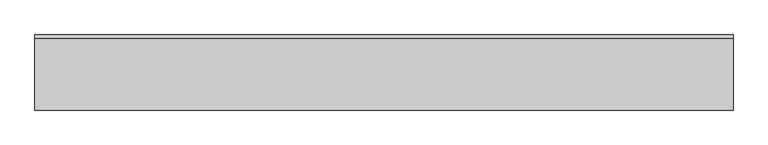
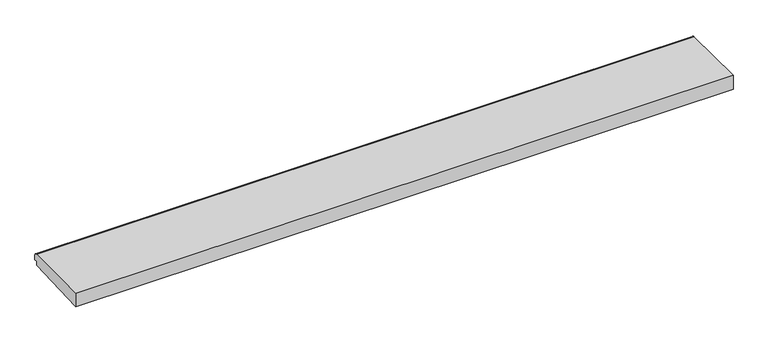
"""IFC4 building model written with IfcOpenShell, lengths in millimetres: proxy geometry, ARQ_BANCA_T3 : ARQ_BANCA_T3."""

from ifc_helpers import new_model, si_unit, point, frame, frame_2d, origin, place, context, project, spatial, polyline, circle_curve, trimmed, segment, composite_curve, outline, extrude, source, transform, mapped, element, save


def generic_models_33ff339d(model_context):
    return source(origin(), model_context, "Body", "SweptSolid", [
        extrude(outline(composite_curve([segment(polyline([(458.9887539, 322.2211934), (0.0, 302.6129318), (0.0, 400.0), (459.0, 399.921901)]), True, "CONTINUOUS"), segment(trimmed(circle_curve(frame_2d((459.0, 379.921901)), 20.0), [point((459.0, 399.921901))], [point((479.0, 379.921901))], False, "CARTESIAN"), True, "CONTINUOUS"), segment(polyline([(479.0, 379.921901), (479.0, 349.9219009), (458.9887539, 349.9219009), (458.9887539, 322.2211934)]), True, "CONTINUOUS")], self_intersect=False)), frame((-2225.3744925, 0.0, 0.0), z_axis=(1.0, 0.0, 0.0), x_axis=(0.0, 1.0, 0.0)), (0.0, 0.0, 1.0), 4450.748985),
    ])


if __name__ == "__main__":
    model = new_model("IFC4")
    model_context = context("Model", 3, world=origin())
    ifc_project = project(units=[si_unit("LENGTHUNIT", "METRE", prefix="MILLI")], contexts=[model_context])
    site = spatial("IfcSite", under=ifc_project)
    building = spatial("IfcBuilding", under=site)
    placement = place(None, origin())
    generic_models_shape = generic_models_33ff339d(model_context)
    element("IfcBuildingElementProxy", 1, Name="ARQ_BANCA_T3 : ARQ_BANCA_T3", ObjectType="ARQ_BANCA_T3 : ARQ_BANCA_T3", at=placement, inside=building, context=model_context, shape_type="MappedRepresentation", body=[
        mapped(generic_models_shape, transform((0.0, 0.0, 0.0), x_axis=(1.0, 0.0, 0.0), y_axis=(0.0, 1.0, 0.0), z_axis=(0.0, 0.0, 1.0))),
    ])
    save(model, "model.ifc")
